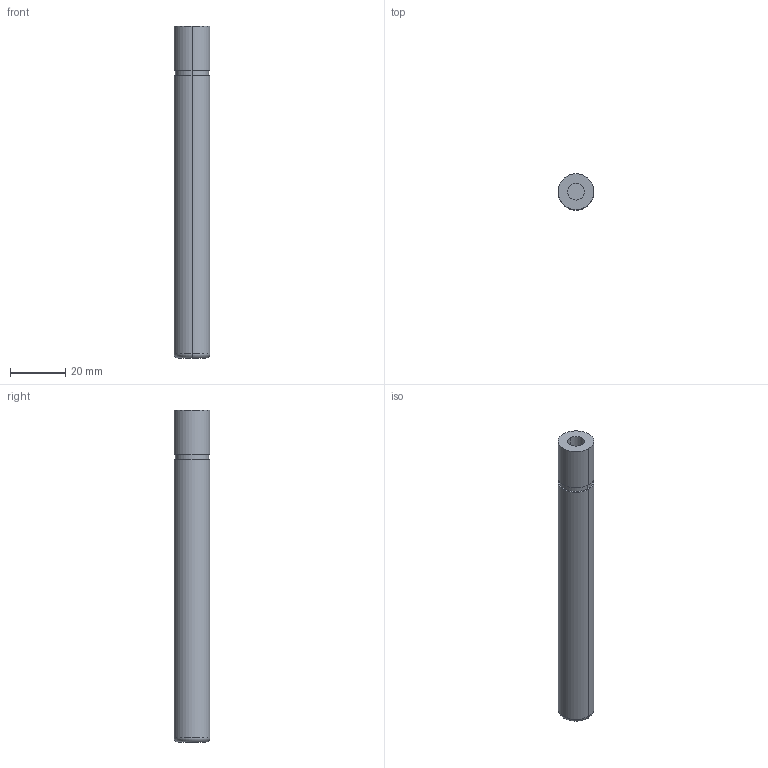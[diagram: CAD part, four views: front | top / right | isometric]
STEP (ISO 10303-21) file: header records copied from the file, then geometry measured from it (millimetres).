
FILE_DESCRIPTION(/* description */ (''),/* implementation_level */ '2;1');
FILE_NAME(/* name */ '3d_sgpn13-120_00280_r00.stp',/* time_stamp */ '2011-01-10T14:11:07+09:00',/* author */ ('MISUMI'),/* organization */ (''),/* preprocessor_version */ 'ST-DEVELOPER v11',/* originating_system */ 'UGS - NX 5.0',/* authorisation */ '');
FILE_SCHEMA (('CONFIG_CONTROL_DESIGN'));
Length unit declared in the file: millimetre
Products named in the file (1): 3d_sgpn13-120_00280_r00
Bounding box: 13 x 13 x 120 mm (x, y, z)
Volume: 15445.8 mm3; surface area: 5454.8 mm2
Topology: 1 solids, 1 shells, 15 faces, 28 edges, 18 vertices
Faces by surface type: cylinder 8, plane 5, torus 2
Entity records: 472 total; most frequent: DIRECTION 80, CARTESIAN_POINT 62, ORIENTED_EDGE 56, AXIS2_PLACEMENT_3D 36, EDGE_CURVE 28, CIRCLE 20, EDGE_LOOP 18, VERTEX_POINT 18
